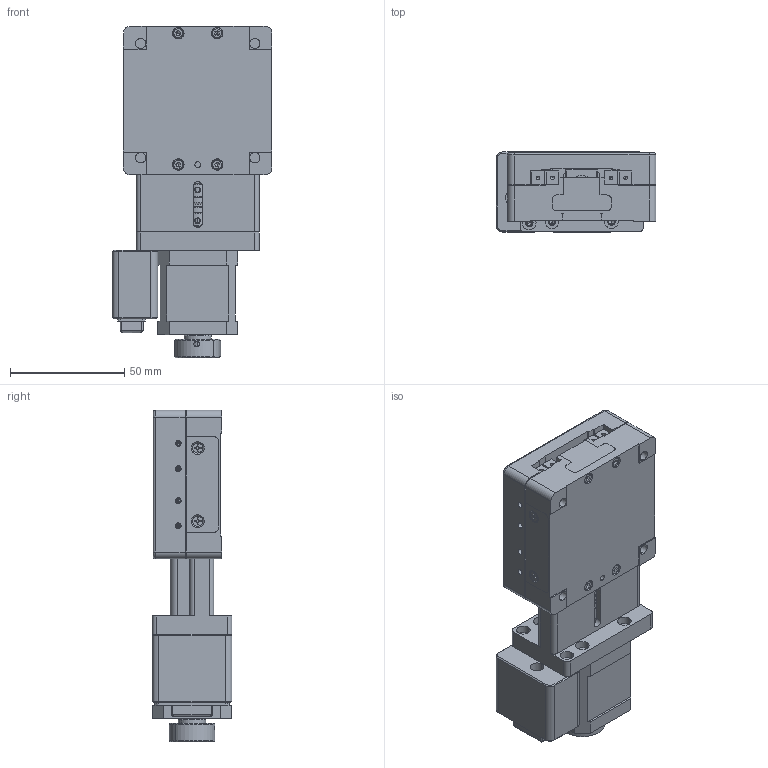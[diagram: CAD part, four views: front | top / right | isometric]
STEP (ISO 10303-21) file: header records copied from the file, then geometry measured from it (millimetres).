
FILE_DESCRIPTION (( 'STEP AP203' ), '1' );
FILE_NAME ('电动位移台：ET10025H.STEP', '2023-11-09T08:33:28', ( '' ), ( '' ), 'SwSTEP 2.0', 'SolidWorks 2016', '' );
FILE_SCHEMA (( 'CONFIG_CONTROL_DESIGN' ));
Length unit declared in the file: millimetre
Products named in the file (1): 电动位移台：ET10025H
Bounding box: 70 x 35 x 145 mm (x, y, z)
Volume: 181882.2 mm3; surface area: 81597.1 mm2
Topology: 40 solids, 40 shells, 1910 faces, 5025 edges, 3176 vertices
Faces by surface type: plane 753, cylinder 719, cone 218, bspline 101, torus 82, sphere 37
Entity records: 66996 total; most frequent: CARTESIAN_POINT 21536, ORIENTED_EDGE 9602, DIRECTION 9015, EDGE_CURVE 4801, AXIS2_PLACEMENT_3D 3383, VERTEX_POINT 3124, EDGE_LOOP 2263, VECTOR 2249
